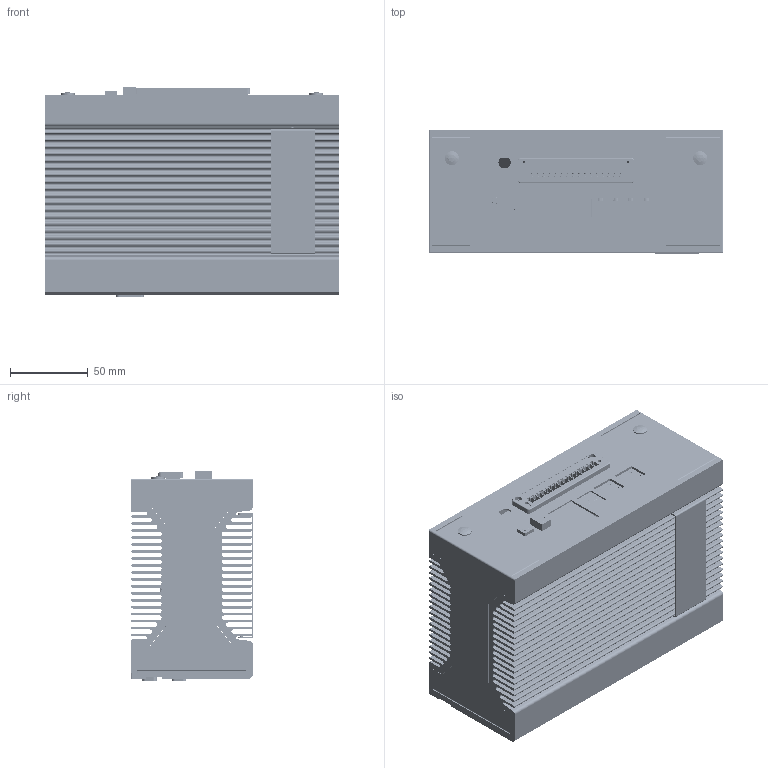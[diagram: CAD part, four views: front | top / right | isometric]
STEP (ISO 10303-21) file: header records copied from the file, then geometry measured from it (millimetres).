
FILE_DESCRIPTION((''),'2;1');
FILE_NAME('000_WHISKY_ASY_ASM_697_ASM','2020-01-06T',('Stephen'),(''),'PRO/ENGINEER BY PARAMETRIC TECHNOLOGY CORPORATION, 2017170','PRO/ENGINEER BY PARAMETRIC TECHNOLOGY CORPORATION, 2017170','');
FILE_SCHEMA(('AUTOMOTIVE_DESIGN { 1 0 10303 214 1 1 1 1 }'));
Products named in the file (263): 01_WHISKY_TOP_AL_124; 01_WHISKY_BTM_AL_64; 04_NC9B_PANEL_65; MANIFOLD_SOLID_BREP_21162; MANIFOLD_SOLID_BREP_21325; MANIFOLD_SOLID_BREP_21488; MANIFOLD_SOLID_BREP_21651; MANIFOLD_SOLID_BREP_21814; 01_BASE_PANEL_45_ASM; MANIFOLD_SOLID_BREP_39955; MANIFOLD_SOLID_BREP_40118; MANIFOLD_SOLID_BREP_40281; MANIFOLD_SOLID_BREP_40444; MANIFOLD_SOLID_BREP_40607; MANIFOLD_SOLID_BREP_40770; MANIFOLD_SOLID_BREP_40933; 01_UP5_BASE_NEW_65_ASM; PRT0004_8; PRT0005_3; PRT0006_3; JH2-HD-2M_2362_1_1_3; B2B-30P-HSM-1M_1673_1_1_3; PJ-8P-HS-14P5M_1968_1_1_3; TS-SOT23_480_1_1_3; BGA96D-7P5X13P3X1P1M_433_1_1_4; RA-8P4R-0805-S_197_1_1_3; B2W-40P-HSM-1M-1_1870_1_1_3; TS-SOT223_709_1_1_3; SSOP8F-90_354_1_1_3; QFN52G-6X6X1_394_1_1_3; RA-4P2R-0402_158_1_1_3; BGA153F-11P5X13X1M-1_394_1_1_3; L0402_216_1_1_3; JH2X6-HD-1P27M_2362_1_1_3; PC104-2X20P-HF-3_3362_1_1_3; TSOP6J-3P05X1P75X1P1M_433_1_1_3; BGA100F-6X6-1_472_1_1_3; SLED-0603_315_1_1_3; XTAL2PS-3P2MX1P5M_315_1_1_3; M2M-75P-R-T8P5M-77P6W22_3346_1_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
Assembly tree (2667 placements, depth 8):
  000_WHISKY_ASY_ASM_697_ASM
    01_WHISKY_TOP_AL_124
    01_WHISKY_BTM_AL_64
    04_NC9B_PANEL_65
    01_BASE_PANEL_45_ASM
      MANIFOLD_SOLID_BREP_21162
      MANIFOLD_SOLID_BREP_21325
      MANIFOLD_SOLID_BREP_21488
      MANIFOLD_SOLID_BREP_21651
      MANIFOLD_SOLID_BREP_21814
    01_UP5_BASE_NEW_65_ASM
      MANIFOLD_SOLID_BREP_39955
      MANIFOLD_SOLID_BREP_40118
      MANIFOLD_SOLID_BREP_40281
      MANIFOLD_SOLID_BREP_40444
      MANIFOLD_SOLID_BREP_40607
      MANIFOLD_SOLID_BREP_40770
      MANIFOLD_SOLID_BREP_40933
    00_WHISKY_PCB_ASY_ASM_73_ASM
      00_WHISKY_20190322_ASM_16_ASM
        00_PCB_FINAL_ASM_12_ASM
          PRT0004_8
          PRT0005_3
          UP_WHL-A01-181206-DDR_ASM_2_ASM_ASM
            ASM0005_ASM_1_ASM_1_ASM_4_ASM
              PRT0006_3
              ASM0007_ASM_10_ASM
                JH2-HD-2M_2362_1_1_3
                B2B-30P-HSM-1M_1673_1_1_3
                PJ-8P-HS-14P5M_1968_1_1_3
                TS-SOT23_480_1_1_3
                BGA96D-7P5X13P3X1P1M_433_1_1_4  x8
                RA-8P4R-0805-S_197_1_1_3  x12
                B2W-40P-HSM-1M-1_1870_1_1_3
                TS-SOT223_709_1_1_3
                SSOP8F-90_354_1_1_3
                QFN52G-6X6X1_394_1_1_3
                RA-4P2R-0402_158_1_1_3
                BGA153F-11P5X13X1M-1_394_1_1_3
                L0402_216_1_1_3  x2
                JH2X6-HD-1P27M_2362_1_1_3
                PC104-2X20P-HF-3_3362_1_1_3
                TSOP6J-3P05X1P75X1P1M_433_1_1_3
                BGA100F-6X6-1_472_1_1_3
                SLED-0603_315_1_1_3  x3
                XTAL2PS-3P2MX1P5M_315_1_1_3
                M2M-75P-R-T8P5M-77P6W22_3346_1_
                TQFP64G-7X7-2P0_472_1_1_3
                QFN20F-4P6MX2P6M_394_1_1_3  x4
                SKT-SIM-8P-RS-1P27M-T1P5M_591_1
                TS-SOD323_492_1_1_3
                SL-S40BE-75P-R-T4M_1654_1_1_3
                MNCD-52P-T6P8M-BF3_2677_1_1_3
                SW-8P-RD_2953_1_1_3
                PJ-3P-RD-22P5M_4331_1_1_3
                SSOP28E-209_787_1_1_3
                BT-POWER2X1-125_1811_1_1_3
                TS-MOSFET5X6X1P2_472_1_1_3  x2
                DFN8F-2X2_394_1_1_3
                TS-WDFN8_315_1_1_3
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Bounding box: 190 x 79.1 x 135.62 mm (x, y, z)
Volume: 787898.5 mm3; surface area: 717631.2 mm2
Topology: 2621 solids, 7393 shells, 39906 faces, 111125 edges, 82742 vertices
Faces by surface type: plane 31630, cylinder 5767, bspline 1947, cone 285, torus 176, sphere 64, extrusion 37
Entity records: 773181 total; most frequent: CARTESIAN_POINT 180951, DIRECTION 113341, ORIENTED_EDGE 97382, EDGE_CURVE 62873, VECTOR 52181, LINE 52144, VERTEX_POINT 50737, AXIS2_PLACEMENT_3D 30580
